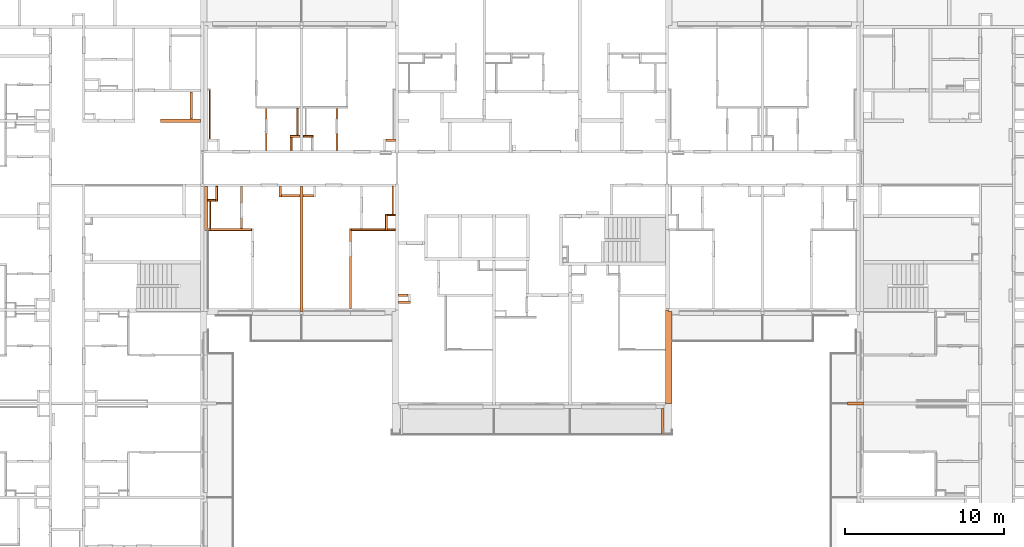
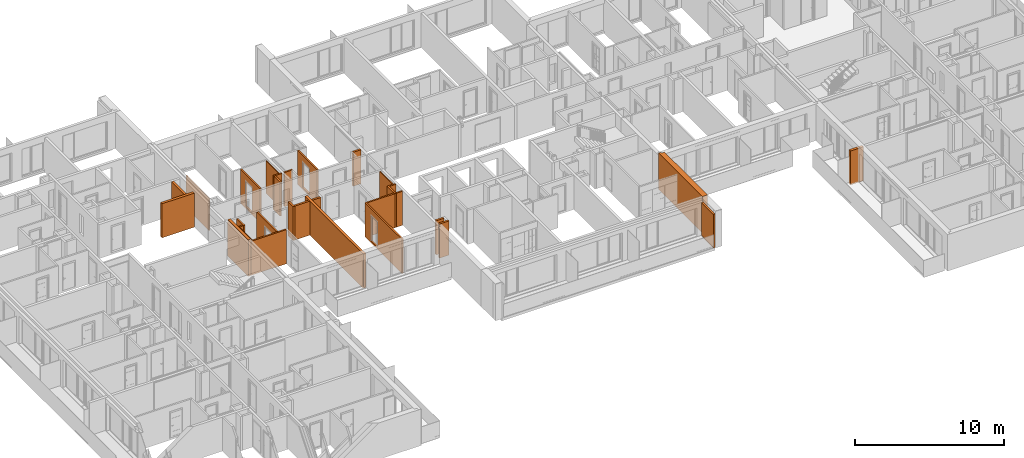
# One storey, part 54 of 64: 30 proxies, 4 openings.
"""IFC2X3 building model written with IfcOpenShell, lengths in millimetres."""

from ifc_helpers import new_model, entity, si_unit, converted_unit, derived_unit, money_unit, direction, frame, origin_with_axes, origin_2d_with_axis, place, context, subcontext, project, spatial, rectangle, extrude, faceted_brep, material, material_list, type_object, element, save


model = new_model("IFC2X3")

# Units and contexts
model_context = context("Model", 3, precision=0.01, world=origin_with_axes(), true_north=direction((0.34421633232, 0.938890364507)))
body_context = subcontext(model_context, "Body", "Model", "MODEL_VIEW")
ifc_project = project(units=[si_unit("LENGTHUNIT", "METRE", prefix="MILLI"), si_unit("AREAUNIT", "SQUARE_METRE"), si_unit("VOLUMEUNIT", "CUBIC_METRE"), converted_unit("PLANEANGLEUNIT", "DEGREE", entity("IfcPlaneAngleMeasure", 0.0174532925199), si_unit("PLANEANGLEUNIT", "RADIAN"), dimensions=[0, 0, 0, 0, 0, 0, 0]), si_unit("SOLIDANGLEUNIT", "STERADIAN"), money_unit("USD"), converted_unit("TIMEUNIT", "Year", entity("IfcTimeMeasure", 31556926.0), si_unit("TIMEUNIT", "SECOND"), dimensions=[0, 0, 1, 0, 0, 0, 0]), si_unit("MASSUNIT", "GRAM", prefix="KILO"), si_unit("THERMODYNAMICTEMPERATUREUNIT", "DEGREE_CELSIUS"), si_unit("LUMINOUSINTENSITYUNIT", "LUMEN"), si_unit("ENERGYUNIT", "JOULE", prefix="MEGA"), derived_unit("THERMALCONDUCTANCEUNIT", [(si_unit("POWERUNIT", "WATT"), 1), (si_unit("LENGTHUNIT", "METRE"), -1), (si_unit("THERMODYNAMICTEMPERATUREUNIT", "KELVIN"), -1)]), derived_unit("SPECIFICHEATCAPACITYUNIT", [(si_unit("ENERGYUNIT", "JOULE"), 1), (si_unit("MASSUNIT", "GRAM", prefix="KILO"), -1), (si_unit("THERMODYNAMICTEMPERATUREUNIT", "KELVIN"), -1)]), derived_unit("MASSDENSITYUNIT", [(si_unit("MASSUNIT", "GRAM", prefix="KILO"), 1), (si_unit("VOLUMEUNIT", "CUBIC_METRE"), -1)])], contexts=[model_context])

# Site, building, storey
site_placement = place(None, origin_with_axes())
site = spatial("IfcSite", under=ifc_project, at=site_placement, Name="USTRONIE MORSKIE", CompositionType="ELEMENT")
building_placement = place(site_placement, origin_with_axes())
building = spatial("IfcBuilding", under=site, at=building_placement, Name="Budynek", CompositionType="ELEMENT")
storey_placement = place(building_placement, frame((0.0, 0.0, 7000.0), z_axis=(0.0, 0.0, 1.0), x_axis=(1.0, 0.0, 0.0)))
storey = spatial("IfcBuildingStorey", under=building, at=storey_placement, Name="PIĘTRO 2", CompositionType="ELEMENT", Elevation=7000.0)

# Proxies
ifc_material_1 = material(Name="Bloczki silikatowe")
building_element_proxy_type_1 = type_object("IfcBuildingElementProxyType", Name="Bloczki silikatowe 120", PredefinedType="NOTDEFINED")
proxy_1_placement = place(storey_placement, frame((378717.914575, 731951.199132, -160.0), z_axis=(0.0, 0.0, 1.0), x_axis=(3.11484010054e-05, 0.999999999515, 0.0)))
element("IfcBuildingElementProxy", 1, at=proxy_1_placement, inside=storey, type_object=building_element_proxy_type_1, material=ifc_material_1, Name="SW-04", context=body_context, shape_type="Brep", body=[
    faceted_brep([(979.997380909, 0.0, 2800.0), (979.989905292, 120.0, 2800.0), (-60.0037378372, 120.0, 2800.0), (-60.000000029, 0.0, 2800.0), (979.997380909, 0.0, 0.0), (979.989905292, 120.0, 0.0), (-60.0037378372, 120.0, 0.0), (-60.000000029, 0.0, 0.0)], [[[0, 1, 2, 3]], [[1, 0, 4, 5]], [[1, 5, 6, 2]], [[7, 3, 2, 6]], [[4, 0, 3, 7]], [[5, 4, 7, 6]]]),
])
proxy_2_placement = place(storey_placement, frame((373317.920919, 737751.199937, -160.0), z_axis=(0.0, 0.0, 1.0), x_axis=(1.0, 0.0, 0.0)))
element("IfcBuildingElementProxy", 2, at=proxy_2_placement, inside=storey, type_object=building_element_proxy_type_1, material=ifc_material_1, Name="SW-04", context=body_context, shape_type="Brep", body=[
    faceted_brep([(720.0, 120.0, 0.0), (720.0, 0.0, 0.0), (100.0, 0.0, 0.0), (100.0, 120.0, 0.0), (720.0, 120.0, 2800.0), (720.0, 0.0, 2800.0), (100.0, 0.0, 2800.0), (100.0, 120.0, 2800.0)], [[[0, 1, 2, 3]], [[1, 0, 4, 5]], [[1, 5, 6, 2]], [[7, 3, 2, 6]], [[4, 0, 3, 7]], [[5, 4, 7, 6]]]),
])
proxy_3_placement = place(storey_placement, frame((372717.920919, 737751.199937, -160.0), z_axis=(0.0, 0.0, 1.0), x_axis=(0.0, -1.0, 0.0)))
element("IfcBuildingElementProxy", 3, at=proxy_3_placement, inside=storey, type_object=building_element_proxy_type_1, material=ifc_material_1, Name="SW-04", context=body_context, shape_type="Brep", body=[
    faceted_brep([(820.00090117, -120.0, 2800.0), (820.00090117, 0.0, 2800.0), (0.0, 0.0, 2800.0), (0.0, -120.0, 2800.0), (820.00090117, -120.0, 0.0), (820.00090117, 0.0, 0.0), (0.0, 0.0, 0.0), (0.0, -120.0, 0.0)], [[[0, 1, 2, 3]], [[1, 0, 4, 5]], [[1, 5, 6, 2]], [[7, 3, 2, 6]], [[4, 0, 3, 7]], [[5, 4, 7, 6]]]),
])

# Proxy, opening
proxy_4_placement = place(storey_placement, frame((369537.940089, 734751.19979, -160.0), z_axis=(0.0, 0.0, 1.0), x_axis=(0.0, -1.0, 0.0)))
proxy_4 = element("IfcBuildingElementProxy", 4, at=proxy_4_placement, inside=storey, type_object=building_element_proxy_type_1, material=ifc_material_1, Name="SW-04", context=body_context, shape_type="Brep", body=[
    faceted_brep([(2740.00065711, 60.0, 0.0), (2740.00065711, -60.0, 0.0), (80.0000185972, -60.0, 0.0), (79.9999814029, 60.0, 0.0), (2740.00065711, 60.0, 2800.0), (2740.00065711, -60.0, 2800.0), (80.0000185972, -60.0, 2800.0), (79.9999814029, 60.0, 2800.0)], [[[0, 1, 2, 3]], [[1, 0, 4, 5]], [[1, 5, 6, 2]], [[7, 3, 2, 6]], [[4, 0, 3, 7]], [[5, 4, 7, 6]]]),
])
opening_1_placement = place(proxy_4_placement, frame((1599.9664843, 0.0, 160.0), z_axis=(0.0, 0.0, 1.0), x_axis=(1.0, 0.0, 0.0)))
element("IfcOpeningElement", 5, at=opening_1_placement, cuts=proxy_4, Name="Dw.4", context=body_context, shape_type="SweptSolid", body=[
    extrude(rectangle(XDim=920.0, YDim=2070.0, at=origin_2d_with_axis()), frame((0.0, -120.0, 1035.0), z_axis=(0.0, -1.0, 0.0), x_axis=(-1.0, 0.0, 0.0)), (0.0, 0.0, -1.0), 360.0),
    extrude(rectangle(XDim=994.0, YDim=2177.0, at=origin_2d_with_axis()), frame((0.0, -60.0, 1088.5), z_axis=(0.0, -1.0, 0.0), x_axis=(-1.0, 0.0, 0.0)), (0.0, 0.0, 1.0), 120.0),
    extrude(rectangle(XDim=994.0, YDim=2177.0, at=origin_2d_with_axis()), frame((0.0, 60.0, 1088.5), z_axis=(0.0, 1.0, 0.0), x_axis=(-1.0, 0.0, 0.0)), (0.0, 0.0, 1.0), 120.0),
])

# Proxies
proxy_5_placement = place(storey_placement, frame((367917.928509, 734751.199287, -160.0), z_axis=(0.0, 0.0, 1.0), x_axis=(-3.11484010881e-05, -0.999999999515, 0.0)))
element("IfcBuildingElementProxy", 6, at=proxy_5_placement, inside=storey, type_object=building_element_proxy_type_1, material=ifc_material_1, Name="SW-04", context=body_context, shape_type="Brep", body=[
    faceted_brep([(1019.99666385, 0.0, 2800.0), (1019.98918823, 120.0, 2800.0), (79.9962250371, 120.0, 2800.0), (80.0000000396, 0.0, 2800.0), (1019.99666385, 0.0, 0.0), (1019.98918823, 120.0, 0.0), (79.9962250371, 120.0, 0.0), (80.0000000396, 0.0, 0.0)], [[[0, 1, 2, 3]], [[1, 0, 4, 5]], [[1, 5, 6, 2]], [[7, 3, 2, 6]], [[4, 0, 3, 7]], [[5, 4, 7, 6]]]),
])
proxy_6_placement = place(storey_placement, frame((373317.920919, 737751.199937, -160.0), z_axis=(0.0, 0.0, 1.0), x_axis=(-1.0, 0.0, 0.0)))
element("IfcBuildingElementProxy", 7, at=proxy_6_placement, inside=storey, type_object=building_element_proxy_type_1, material=ifc_material_1, Name="SW-04", context=body_context, shape_type="Brep", body=[
    faceted_brep([(720.0, 0.0, 2800.0), (100.0, 0.0, 2800.0), (100.0, -120.0, 2800.0), (720.0, -120.0, 2800.0), (720.0, 0.0, 0.0), (100.0, 0.0, 0.0), (100.0, -120.0, 0.0), (720.0, -120.0, 0.0)], [[[0, 1, 2, 3]], [[4, 5, 1, 0]], [[5, 6, 2, 1]], [[3, 2, 6, 7]], [[7, 4, 0, 3]], [[7, 6, 5, 4]]]),
])
proxy_7_placement = place(storey_placement, frame((379317.920919, 732811.215201, -160.0), z_axis=(0.0, 0.0, 1.0), x_axis=(-0.999999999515, -3.11484020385e-05, 0.0)))
element("IfcBuildingElementProxy", 8, at=proxy_7_placement, inside=storey, type_object=building_element_proxy_type_1, material=ifc_material_1, Name="SW-04", context=body_context, shape_type="Brep", body=[
    faceted_brep([(599.979556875, 1.13686837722e-10, 0.0), (599.972081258, -120.0, 0.0), (99.9962622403, -120.0, 0.0), (100.000000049, 1.13686837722e-10, 0.0), (599.979556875, 1.13686837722e-10, 2800.0), (599.972081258, -120.0, 2800.0), (99.9962622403, -120.0, 2800.0), (100.000000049, 1.13686837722e-10, 2800.0)], [[[0, 1, 2, 3]], [[1, 0, 4, 5]], [[1, 5, 6, 2]], [[7, 3, 2, 6]], [[4, 0, 3, 7]], [[5, 4, 7, 6]]]),
])
proxy_8_placement = place(storey_placement, frame((367317.920919, 731951.199132, -160.0), z_axis=(0.0, 0.0, 1.0), x_axis=(1.0, 0.0, 0.0)))
element("IfcBuildingElementProxy", 9, at=proxy_8_placement, inside=storey, type_object=building_element_proxy_type_1, material=ifc_material_1, Name="SW-04", context=body_context, shape_type="Brep", body=[
    faceted_brep([(2860.01935038, -59.9999999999, 2800.0), (2860.01935038, 59.9999999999, 2800.0), (99.9999999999, 59.9999999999, 2800.0), (99.9999999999, -59.9999999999, 2800.0), (2860.01935038, -59.9999999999, 0.0), (2860.01935038, 59.9999999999, 0.0), (99.9999999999, 59.9999999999, 0.0), (99.9999999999, -59.9999999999, 0.0)], [[[0, 1, 2, 3]], [[1, 0, 4, 5]], [[1, 5, 6, 2]], [[7, 3, 2, 6]], [[4, 0, 3, 7]], [[5, 4, 7, 6]]]),
])
proxy_9_placement = place(storey_placement, frame((367317.920919, 733851.183936, -160.0), z_axis=(0.0, 0.0, 1.0), x_axis=(0.999999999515, 3.11484020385e-05, 0.0)))
element("IfcBuildingElementProxy", 10, at=proxy_9_placement, inside=storey, type_object=building_element_proxy_type_1, material=ifc_material_1, Name="SW-04", context=body_context, shape_type="Brep", body=[
    faceted_brep([(599.979556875, 1.13686837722e-10, 0.0), (599.972081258, -120.0, 0.0), (99.9962622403, -120.0, 0.0), (100.000000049, 1.13686837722e-10, 0.0), (599.979556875, 1.13686837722e-10, 2800.0), (599.972081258, -120.0, 2800.0), (99.9962622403, -120.0, 2800.0), (100.000000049, 1.13686837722e-10, 2800.0)], [[[0, 1, 2, 3]], [[1, 0, 4, 5]], [[1, 5, 6, 2]], [[7, 3, 2, 6]], [[4, 0, 3, 7]], [[5, 4, 7, 6]]]),
])

# Proxy, opening
proxy_10_placement = place(storey_placement, frame((375537.920919, 739651.199937, -160.0), z_axis=(0.0, 0.0, 1.0), x_axis=(0.0, -1.0, 0.0)))
proxy_10 = element("IfcBuildingElementProxy", 11, at=proxy_10_placement, inside=storey, type_object=building_element_proxy_type_1, material=ifc_material_1, Name="SW-04", context=body_context, shape_type="Brep", body=[
    faceted_brep([(2720.00090117, 60.0, 0.0), (2720.00090117, -60.0, 0.0), (59.9999999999, -60.0, 0.0), (59.9999999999, 60.0, 0.0), (2720.00090117, 60.0, 2800.0), (2720.00090117, -60.0, 2800.0), (59.9999999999, -60.0, 2800.0), (59.9999999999, 60.0, 2800.0)], [[[0, 1, 2, 3]], [[1, 0, 4, 5]], [[1, 5, 6, 2]], [[7, 3, 2, 6]], [[4, 0, 3, 7]], [[5, 4, 7, 6]]]),
])
opening_2_placement = place(proxy_10_placement, frame((1200.00090117, 0.0, 160.0), z_axis=(0.0, 0.0, 1.0), x_axis=(1.0, 0.0, 0.0)))
element("IfcOpeningElement", 12, at=opening_2_placement, cuts=proxy_10, Name="Dw.4", context=body_context, shape_type="SweptSolid", body=[
    extrude(rectangle(XDim=920.0, YDim=2070.0, at=origin_2d_with_axis()), frame((0.0, -120.0, 1035.0), z_axis=(0.0, -1.0, 0.0), x_axis=(-1.0, 0.0, 0.0)), (0.0, 0.0, -1.0), 360.0),
    extrude(rectangle(XDim=994.0, YDim=2177.0, at=origin_2d_with_axis()), frame((0.0, -60.0, 1088.5), z_axis=(0.0, -1.0, 0.0), x_axis=(-1.0, 0.0, 0.0)), (0.0, 0.0, 1.0), 120.0),
    extrude(rectangle(XDim=994.0, YDim=2177.0, at=origin_2d_with_axis()), frame((0.0, 60.0, 1088.5), z_axis=(0.0, 1.0, 0.0), x_axis=(-1.0, 0.0, 0.0)), (0.0, 0.0, 1.0), 120.0),
])

proxy_11_placement = place(storey_placement, frame((371097.920919, 739651.199937, -160.0), z_axis=(0.0, 0.0, 1.0), x_axis=(0.0, -1.0, 0.0)))
proxy_11 = element("IfcBuildingElementProxy", 13, at=proxy_11_placement, inside=storey, type_object=building_element_proxy_type_1, material=ifc_material_1, Name="SW-04", context=body_context, shape_type="Brep", body=[
    faceted_brep([(2720.00090117, -60.0, 2800.0), (2720.00090117, 60.0, 2800.0), (59.9999999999, 60.0, 2800.0), (59.9999999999, -60.0, 2800.0), (2720.00090117, -60.0, 0.0), (2720.00090117, 60.0, 0.0), (59.9999999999, 60.0, 0.0), (59.9999999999, -60.0, 0.0)], [[[0, 1, 2, 3]], [[1, 0, 4, 5]], [[1, 5, 6, 2]], [[7, 3, 2, 6]], [[4, 0, 3, 7]], [[5, 4, 7, 6]]]),
])
opening_3_placement = place(proxy_11_placement, frame((1200.00090117, 0.0, 160.0), z_axis=(0.0, 0.0, 1.0), x_axis=(1.0, 0.0, 0.0)))
element("IfcOpeningElement", 14, at=opening_3_placement, cuts=proxy_11, Name="Dw.4", context=body_context, shape_type="SweptSolid", body=[
    extrude(rectangle(XDim=920.0, YDim=2070.0, at=origin_2d_with_axis()), frame((0.0, 120.0, 1035.0), z_axis=(0.0, -1.0, 0.0), x_axis=(-1.0, 0.0, 0.0)), (0.0, 0.0, 1.0), 360.0),
    extrude(rectangle(XDim=994.0, YDim=2177.0, at=origin_2d_with_axis()), frame((0.0, 60.0, 1088.5), z_axis=(0.0, -1.0, 0.0), x_axis=(-1.0, 0.0, 0.0)), (0.0, 0.0, -1.0), 120.0),
    extrude(rectangle(XDim=994.0, YDim=2177.0, at=origin_2d_with_axis()), frame((0.0, -60.0, 1088.5), z_axis=(0.0, 1.0, 0.0), x_axis=(-1.0, 0.0, 0.0)), (0.0, 0.0, -1.0), 120.0),
])

# Proxy
proxy_12_placement = place(storey_placement, frame((379317.920919, 731951.199132, -160.0), z_axis=(0.0, 0.0, 1.0), x_axis=(-1.0, 0.0, 0.0)))
element("IfcBuildingElementProxy", 15, at=proxy_12_placement, inside=storey, type_object=building_element_proxy_type_1, material=ifc_material_1, Name="SW-04", context=body_context, shape_type="Brep", body=[
    faceted_brep([(2860.01935038, 59.9999999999, 0.0), (2860.01935038, -59.9999999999, 0.0), (720.004475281, -59.9999999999, 0.0), (720.008213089, 59.9999999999, 0.0), (2860.01935038, 59.9999999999, 2800.0), (2860.01935038, -59.9999999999, 2800.0), (720.004475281, -59.9999999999, 2800.0), (720.008213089, 59.9999999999, 2800.0)], [[[0, 1, 2, 3]], [[1, 0, 4, 5]], [[1, 5, 6, 2]], [[7, 3, 2, 6]], [[4, 0, 3, 7]], [[5, 4, 7, 6]]]),
    faceted_brep([(600.008213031, 59.9999999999, 0.0), (600.004475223, -59.9999999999, 0.0), (100.0, -59.9999999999, 0.0), (100.0, 59.9999999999, 0.0), (600.008213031, 59.9999999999, 2800.0), (600.004475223, -59.9999999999, 2800.0), (100.0, -59.9999999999, 2800.0), (100.0, 59.9999999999, 2800.0)], [[[0, 1, 2, 3]], [[1, 0, 4, 5]], [[1, 5, 6, 2]], [[7, 3, 2, 6]], [[4, 0, 3, 7]], [[5, 4, 7, 6]]]),
])

# Proxy, opening
proxy_13_placement = place(storey_placement, frame((376397.901569, 731951.199132, -160.0), z_axis=(0.0, 0.0, 1.0), x_axis=(0.0, -1.0, 0.0)))
proxy_13 = element("IfcBuildingElementProxy", 16, at=proxy_13_placement, inside=storey, type_object=building_element_proxy_type_1, material=ifc_material_1, Name="SW-04", context=body_context, shape_type="Brep", body=[
    faceted_brep([(4950.00009633, -60.0, 2800.0), (4950.00009633, 60.0, 2800.0), (-59.9999999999, 60.0, 2800.0), (-59.9999999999, -60.0, 2800.0), (4950.00009633, -60.0, 0.0), (4950.00009633, 60.0, 0.0), (-59.9999999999, 60.0, 0.0), (-59.9999999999, -60.0, 0.0)], [[[0, 1, 2, 3]], [[1, 0, 4, 5]], [[1, 5, 6, 2]], [[7, 3, 2, 6]], [[4, 0, 3, 7]], [[5, 4, 7, 6]]]),
])
opening_4_placement = place(proxy_13_placement, frame((1220.00038806, 0.0, 160.0), z_axis=(0.0, 0.0, 1.0), x_axis=(1.0, 0.0, 0.0)))
element("IfcOpeningElement", 17, at=opening_4_placement, cuts=proxy_13, Name="Dw.3", context=body_context, shape_type="SweptSolid", body=[
    extrude(rectangle(XDim=920.0, YDim=2070.0, at=origin_2d_with_axis()), frame((0.0, 120.0, 1035.0), z_axis=(0.0, 1.0, 0.0), x_axis=(-1.0, 0.0, 0.0)), (0.0, 0.0, -1.0), 360.0),
    extrude(rectangle(XDim=994.0, YDim=2177.0, at=origin_2d_with_axis()), frame((0.0, 60.0, 1088.5), z_axis=(0.0, 1.0, 0.0), x_axis=(-1.0, 0.0, 0.0)), (0.0, 0.0, 1.0), 120.0),
    extrude(rectangle(XDim=994.0, YDim=2177.0, at=origin_2d_with_axis()), frame((0.0, -60.0, 1088.5), z_axis=(0.0, -1.0, 0.0), x_axis=(-1.0, 0.0, 0.0)), (0.0, 0.0, 1.0), 120.0),
])

# Proxies
ifc_material_2 = material(Name="Tynk zewnętrzny")
ifc_material_3 = material(Name="Wełna ELEW")
ifc_material_4 = material(Name="Beton konstrukcyjny B25")
ifc_material_list_1 = material_list([ifc_material_2, ifc_material_3, ifc_material_4])
building_element_proxy_type_2 = type_object("IfcBuildingElementProxyType", Name="20+20 410", PredefinedType="NOTDEFINED")
proxy_14_placement = place(storey_placement, frame((396317.920919, 726901.199036, -160.0), z_axis=(0.0, 0.0, 1.0), x_axis=(0.0, -1.0, 0.0)))
element("IfcBuildingElementProxy", 18, at=proxy_14_placement, inside=storey, type_object=building_element_proxy_type_2, material=ifc_material_list_1, Name="SZ-01", context=body_context, shape_type="Brep", body=[
    faceted_brep([(300.0, 300.0, 2800.0), (300.0, 310.0, 2800.0), (300.0, 310.0, 110.0), (300.0, 300.271623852, 110.0), (300.0, 300.271623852, 0.0), (300.0, 300.0, 0.0), (1900.00067759, 310.0, 2800.0), (1900.00067759, 301.448005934, 2800.0), (1900.00067759, 310.0, 3000.0), (5900.0, 310.0, 3000.0), (5900.0, 310.0, 0.0), (1900.00067759, 310.0, 0.0), (1900.00067759, 310.0, 110.0), (1900.00067759, 301.719629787, 110.0), (1900.00067759, 301.719629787, 0.0), (5900.0, 300.0, 0.0), (300.0, 300.0, 3000.0), (5900.0, 300.0, 3000.0), (1900.00067759, 301.448005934, 3000.0)], [[[0, 1, 2, 3, 4, 5]], [[6, 1, 0, 7]], [[6, 8, 9, 10, 11, 12, 2, 1]], [[3, 2, 12, 13]], [[3, 13, 14, 4]], [[14, 11, 10, 15, 5, 4]], [[16, 0, 5, 15, 17]], [[16, 18, 7, 0]], [[18, 8, 6, 7]], [[18, 16, 17, 9, 8]], [[15, 10, 9, 17]], [[13, 12, 11, 14]]]),
    faceted_brep([(5900.0, 300.0, 0.0), (100.0, 300.0, 0.0), (100.0, 300.0, 3000.0), (5900.0, 300.0, 3000.0), (5900.0, 100.0, 0.0), (100.0, 100.0, 0.0), (100.0, 100.0, 3000.0), (5900.0, 100.0, 3000.0)], [[[0, 1, 2, 3]], [[4, 5, 1, 0]], [[5, 6, 2, 1]], [[3, 2, 6, 7]], [[4, 0, 3, 7]], [[7, 6, 5, 4]]]),
    faceted_brep([(0.0, 100.0, 3000.0), (0.0, -100.0, 3000.0), (5900.0, -100.0, 3000.0), (5900.0, 100.0, 3000.0), (0.0, 100.0, 0.0), (0.0, -100.0, 0.0), (5900.0, -100.0, 0.0), (5900.0, 100.0, 0.0)], [[[0, 1, 2, 3]], [[4, 5, 1, 0]], [[1, 5, 6, 2]], [[7, 3, 2, 6]], [[4, 0, 3, 7]], [[5, 4, 7, 6]]]),
])
building_element_proxy_type_3 = type_object("IfcBuildingElementProxyType", Name="Bloczki silikatowe 180", PredefinedType="NOTDEFINED")
proxy_15_placement = place(storey_placement, frame((366377.920919, 738801.199036, -160.0), z_axis=(0.0, 0.0, 1.0), x_axis=(0.0, 1.0, 0.0)))
element("IfcBuildingElementProxy", 19, at=proxy_15_placement, inside=storey, type_object=building_element_proxy_type_3, material=ifc_material_1, Name="SW-02", context=body_context, shape_type="Brep", body=[
    faceted_brep([(1819.98043997, -90.0, 2800.0), (1819.98043997, 90.0, 2800.0), (100.0, 90.0, 2800.0), (100.0, -90.0, 2800.0), (1819.98043997, -90.0, 0.0), (1819.98043997, 90.0, 0.0), (100.0, 90.0, 0.0), (100.0, -90.0, 0.0)], [[[0, 1, 2, 3]], [[1, 0, 4, 5]], [[1, 5, 6, 2]], [[7, 3, 2, 6]], [[4, 0, 3, 7]], [[5, 4, 7, 6]]]),
])
ifc_material_5 = material(Name="-Pustka powietrzna")
ifc_material_6 = material(Name="Płyta GK")
ifc_material_list_2 = material_list([ifc_material_5, ifc_material_6, ifc_material_6])
building_element_proxy_type_4 = type_object("IfcBuildingElementProxyType", Name="330-SD GK 2-warstwy 75", PredefinedType="NOTDEFINED")
proxy_16_placement = place(storey_placement, frame((373072.933272, 739651.199937, -180.0), z_axis=(0.0, 0.0, 1.0), x_axis=(0.0, -1.0, 0.0)))
element("IfcBuildingElementProxy", 20, at=proxy_16_placement, inside=storey, type_object=building_element_proxy_type_4, material=ifc_material_list_2, Name="Ściana-009", context=body_context, shape_type="Brep", body=[
    faceted_brep([(1780.0, 25.0, 180.0), (59.9999999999, 25.0, 180.0), (59.9999999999, 25.0, 2820.0), (1780.0, 25.0, 2820.0), (59.9999999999, -25.0, 180.0), (1780.0, -25.0, 180.0), (59.9999999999, -25.0, 2820.0), (1780.0, -25.0, 2820.0)], [[[0, 1, 2, 3]], [[4, 1, 0, 5]], [[1, 4, 6, 2]], [[6, 7, 3, 2]], [[5, 0, 3, 7]], [[4, 5, 7, 6]]]),
    faceted_brep([(1780.0, -25.0, 165.0), (59.9999999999, -25.0, 165.0), (59.9999999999, -25.0, 2820.0), (1780.0, -25.0, 2820.0), (59.9999999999, -37.5, 165.0), (1780.0, -37.5, 165.0), (59.9999999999, -37.5, 2820.0), (1780.0, -37.5, 2820.0)], [[[0, 1, 2, 3]], [[4, 1, 0, 5]], [[1, 4, 6, 2]], [[6, 7, 3, 2]], [[5, 0, 3, 7]], [[4, 5, 7, 6]]]),
    faceted_brep([(1780.0, -37.5, 165.0), (59.9999999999, -37.5, 165.0), (59.9999999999, -37.5, 2820.0), (1780.0, -37.5, 2820.0), (59.9999999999, -50.0, 165.0), (1780.0, -50.0, 165.0), (59.9999999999, -50.0, 2820.0), (1780.0, -50.0, 2820.0)], [[[0, 1, 2, 3]], [[4, 1, 0, 5]], [[1, 4, 6, 2]], [[6, 7, 3, 2]], [[5, 0, 3, 7]], [[4, 5, 7, 6]]]),
])
ifc_material_list_3 = material_list([ifc_material_6, ifc_material_6, ifc_material_5])
proxy_17_placement = place(storey_placement, frame((367562.908566, 733851.192501, -160.0), z_axis=(0.0, 0.0, 1.0), x_axis=(0.0, -1.0, 0.0)))
element("IfcBuildingElementProxy", 21, at=proxy_17_placement, inside=storey, type_object=building_element_proxy_type_4, material=ifc_material_list_3, Name="Ściana-009", context=body_context, shape_type="Brep", body=[
    faceted_brep([(1839.99336882, 50.0, 145.0), (119.99937709, 50.0, 145.0), (119.99937709, 50.0, 2800.0), (1839.99336882, 50.0, 2800.0), (119.999766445, 37.5, 145.0), (1839.99336882, 37.5, 145.0), (119.999766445, 37.5, 2800.0), (1839.99336882, 37.5, 2800.0)], [[[0, 1, 2, 3]], [[4, 1, 0, 5]], [[1, 4, 6, 2]], [[7, 3, 2, 6]], [[5, 0, 3, 7]], [[4, 5, 7, 6]]]),
    faceted_brep([(1839.99336882, 37.5, 145.0), (119.999766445, 37.5, 145.0), (119.999766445, 37.5, 2800.0), (1839.99336882, 37.5, 2800.0), (120.0001558, 25.0, 145.0), (1839.99336882, 25.0, 145.0), (120.0001558, 25.0, 2800.0), (1839.99336882, 25.0, 2800.0)], [[[0, 1, 2, 3]], [[4, 1, 0, 5]], [[1, 4, 6, 2]], [[7, 3, 2, 6]], [[5, 0, 3, 7]], [[4, 5, 7, 6]]]),
    faceted_brep([(1839.99336882, 25.0, 160.0), (120.0001558, 25.0, 160.0), (120.0001558, 25.0, 2800.0), (1839.99336882, 25.0, 2800.0), (120.00171322, -25.0, 160.0), (1839.99336882, -25.0, 160.0), (120.00171322, -25.0, 2800.0), (1839.99336882, -25.0, 2800.0)], [[[0, 1, 2, 3]], [[4, 1, 0, 5]], [[1, 4, 6, 2]], [[7, 3, 2, 6]], [[5, 0, 3, 7]], [[4, 5, 7, 6]]]),
])
proxy_18_placement = place(storey_placement, frame((367547.898487, 737501.202288, -180.0), z_axis=(0.0, 0.0, 1.0), x_axis=(1.16660687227e-07, 1.0, 0.0)))
element("IfcBuildingElementProxy", 22, at=proxy_18_placement, inside=storey, type_object=building_element_proxy_type_4, material=ifc_material_list_2, Name="Ściana-009", context=body_context, shape_type="Brep", body=[
    faceted_brep([(150.0, 0.0, 180.0), (3270.0, 0.0, 180.0), (3270.0, 0.0, 2820.0), (150.0, 0.0, 2820.0), (3269.99999417, 50.0000000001, 180.0), (149.999994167, 50.0000000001, 180.0), (3269.99999417, 50.0000000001, 2820.0), (149.999994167, 50.0000000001, 2820.0)], [[[0, 1, 2, 3]], [[4, 1, 0, 5]], [[1, 4, 6, 2]], [[6, 7, 3, 2]], [[5, 0, 3, 7]], [[4, 5, 7, 6]]]),
    faceted_brep([(150.000001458, -12.4999999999, 165.0), (3282.50000146, -12.4999999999, 165.0), (3282.50000146, -12.4999999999, 2820.0), (150.000001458, -12.4999999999, 2820.0), (3282.50000001, 0.0, 165.0), (150.0, 1.13686837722e-10, 165.0), (3282.50000001, 0.0, 2820.0), (150.0, 0.0, 2820.0)], [[[0, 1, 2, 3]], [[4, 1, 0, 5]], [[1, 4, 6, 2]], [[6, 7, 3, 2]], [[5, 0, 3, 7]], [[4, 5, 7, 6]]]),
    faceted_brep([(150.000002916, -24.9999999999, 165.0), (3295.00000292, -25.0, 165.0), (3295.00000292, -25.0, 2820.0), (150.000002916, -24.9999999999, 2820.0), (3295.00000146, -12.4999999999, 165.0), (150.000001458, -12.4999999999, 165.0), (3295.00000146, -12.4999999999, 2820.0), (150.000001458, -12.4999999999, 2820.0)], [[[0, 1, 2, 3]], [[4, 1, 0, 5]], [[1, 4, 6, 2]], [[6, 7, 3, 2]], [[5, 0, 3, 7]], [[4, 5, 7, 6]]]),
])
proxy_19_placement = place(storey_placement, frame((379072.933272, 732811.206636, -160.0), z_axis=(0.0, 0.0, 1.0), x_axis=(0.0, 1.0, 0.0)))
element("IfcBuildingElementProxy", 23, at=proxy_19_placement, inside=storey, type_object=building_element_proxy_type_4, material=ifc_material_list_3, Name="Ściana-009", context=body_context, shape_type="Brep", body=[
    faceted_brep([(119.999766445, 37.5, 145.0), (1859.99609764, 37.5, 145.0), (1859.99609764, 37.5, 2800.0), (119.999766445, 37.5, 2800.0), (1859.99609377, 50.0, 145.0), (119.99937709, 50.0, 145.0), (1859.99609377, 50.0, 2800.0), (119.99937709, 50.0, 2800.0)], [[[0, 1, 2, 3]], [[4, 1, 0, 5]], [[1, 4, 6, 2]], [[2, 6, 7, 3]], [[5, 0, 3, 7]], [[4, 5, 7, 6]]]),
    faceted_brep([(120.0001558, 25.0, 145.0), (1859.99610152, 25.0, 145.0), (1859.99610152, 25.0, 2800.0), (120.0001558, 25.0, 2800.0), (1859.99609764, 37.5, 145.0), (119.999766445, 37.5, 145.0), (1859.99609764, 37.5, 2800.0), (119.999766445, 37.5, 2800.0)], [[[0, 1, 2, 3]], [[4, 1, 0, 5]], [[1, 4, 6, 2]], [[2, 6, 7, 3]], [[5, 0, 3, 7]], [[4, 5, 7, 6]]]),
    faceted_brep([(120.00171322, -25.0, 160.0), (1859.99611702, -25.0, 160.0), (1859.99611702, -25.0, 2800.0), (120.00171322, -25.0, 2800.0), (1859.99610152, 25.0, 160.0), (120.0001558, 25.0, 160.0), (1859.99610152, 25.0, 2800.0), (120.0001558, 25.0, 2800.0)], [[[0, 1, 2, 3]], [[4, 1, 0, 5]], [[1, 4, 6, 2]], [[2, 6, 7, 3]], [[5, 0, 3, 7]], [[4, 5, 7, 6]]]),
])
building_element_proxy_type_5 = type_object("IfcBuildingElementProxyType", Name="Bloczki silikatowe 150", PredefinedType="NOTDEFINED")
proxy_20_placement = place(storey_placement, frame((372047.920919, 734151.201884, -160.0), z_axis=(0.0, 0.0, 1.0), x_axis=(1.0, 0.0, 0.0)))
element("IfcBuildingElementProxy", 24, at=proxy_20_placement, inside=storey, type_object=building_element_proxy_type_5, material=ifc_material_1, Name="SW-03", context=body_context, shape_type="Brep", body=[
    faceted_brep([(0.0, -150.0, 2800.0), (1170.0, -150.0, 2800.0), (1170.0, 0.0, 2800.0), (0.0, 0.0, 2800.0), (0.0, -150.0, 0.0), (1170.0, -150.0, 0.0), (1170.0, 0.0, 0.0), (0.0, 0.0, 0.0)], [[[0, 1, 2, 3]], [[4, 5, 1, 0]], [[5, 6, 2, 1]], [[3, 2, 6, 7]], [[3, 7, 4, 0]], [[7, 6, 5, 4]]]),
])
proxy_21_placement = place(storey_placement, frame((374067.920919, 734151.201884, -160.0), z_axis=(0.0, 0.0, 1.0), x_axis=(-1.0, 0.0, 0.0)))
element("IfcBuildingElementProxy", 25, at=proxy_21_placement, inside=storey, type_object=building_element_proxy_type_5, material=ifc_material_1, Name="SW-03", context=body_context, shape_type="Brep", body=[
    faceted_brep([(650.0, 0.0, 2800.0), (650.0, 150.0, 2800.0), (0.0, 150.0, 2800.0), (0.0, 0.0, 2800.0), (650.0, 0.0, 0.0), (650.0, 150.0, 0.0), (0.0, 150.0, 0.0), (0.0, 0.0, 0.0)], [[[0, 1, 2, 3]], [[1, 0, 4, 5]], [[1, 5, 6, 2]], [[7, 3, 2, 6]], [[4, 0, 3, 7]], [[5, 4, 7, 6]]]),
])
proxy_22_placement = place(storey_placement, frame((379317.920919, 727451.199036, -160.0), z_axis=(0.0, 0.0, 1.0), x_axis=(1.0, 0.0, 0.0)))
element("IfcBuildingElementProxy", 26, at=proxy_22_placement, inside=storey, type_object=building_element_proxy_type_5, material=ifc_material_1, Name="SW-03", context=body_context, shape_type="Brep", body=[
    faceted_brep([(850.00090117, -150.0, 2800.0), (850.00090117, 0.0, 2800.0), (100.0, 0.0, 2800.0), (100.0, -150.0, 2800.0), (850.00090117, -150.0, 0.0), (850.00090117, 0.0, 0.0), (100.0, 0.0, 0.0), (100.0, -150.0, 0.0)], [[[0, 1, 2, 3]], [[1, 0, 4, 5]], [[1, 5, 6, 2]], [[7, 3, 2, 6]], [[4, 0, 3, 7]], [[5, 4, 7, 6]]]),
])
proxy_23_placement = place(storey_placement, frame((380017.92182, 727826.199036, -160.0), z_axis=(0.0, 0.0, 1.0), x_axis=(-1.0, 0.0, 0.0)))
element("IfcBuildingElementProxy", 27, at=proxy_23_placement, inside=storey, type_object=building_element_proxy_type_5, material=ifc_material_1, Name="SW-03", context=body_context, shape_type="Brep", body=[
    faceted_brep([(600.00090117, 75.0, 0.0), (600.00090117, -75.0, 0.0), (0.0, -75.0, 0.0), (0.0, 75.0, 0.0), (600.00090117, 75.0, 2800.0), (600.00090117, -75.0, 2800.0), (0.0, -75.0, 2800.0), (0.0, 75.0, 2800.0)], [[[0, 1, 2, 3]], [[1, 0, 4, 5]], [[1, 5, 6, 2]], [[7, 3, 2, 6]], [[4, 0, 3, 7]], [[5, 4, 7, 6]]]),
])
proxy_24_placement = place(storey_placement, frame((378617.937739, 737501.202288, -160.0), z_axis=(0.0, 0.0, 1.0), x_axis=(1.0, 0.0, 0.0)))
element("IfcBuildingElementProxy", 28, at=proxy_24_placement, inside=storey, type_object=building_element_proxy_type_5, material=ifc_material_1, Name="SW-03", context=body_context, shape_type="Brep", body=[
    faceted_brep([(599.983179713, 0.0, 2800.0), (599.983179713, 150.0, 2800.0), (0.0, 150.0, 2800.0), (0.0, 0.0, 2800.0), (599.983179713, 0.0, 0.0), (599.983179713, 150.0, 0.0), (0.0, 150.0, 0.0), (0.0, 0.0, 0.0)], [[[0, 1, 2, 3]], [[1, 0, 4, 5]], [[1, 5, 6, 2]], [[7, 3, 2, 6]], [[4, 0, 3, 7]], [[5, 4, 7, 6]]]),
])
proxy_25_placement = place(storey_placement, frame((372047.920919, 734751.200744, -160.0), z_axis=(0.0, 0.0, 1.0), x_axis=(0.0, -1.0, 0.0)))
element("IfcBuildingElementProxy", 29, at=proxy_25_placement, inside=storey, type_object=building_element_proxy_type_5, material=ifc_material_1, Name="SW-03", context=body_context, shape_type="Brep", body=[
    faceted_brep([(749.998859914, 0.0, 0.0), (749.998859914, -150.0, 0.0), (80.0002231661, -150.0, 0.0), (80.000176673, 0.0, 0.0), (749.998859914, 0.0, 2800.0), (749.998859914, -150.0, 2800.0), (80.0002231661, -150.0, 2800.0), (80.000176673, 0.0, 2800.0)], [[[0, 1, 2, 3]], [[1, 0, 4, 5]], [[1, 5, 6, 2]], [[7, 3, 2, 6]], [[4, 0, 3, 7]], [[5, 4, 7, 6]]]),
])
building_element_proxy_type_6 = type_object("IfcBuildingElementProxyType", Name="Beton konstrukcyjny B25 200", PredefinedType="NOTDEFINED")
proxy_26_placement = place(storey_placement, frame((373317.920919, 726901.199036, -160.0), z_axis=(0.0, 0.0, 1.0), x_axis=(0.0, 1.0, 0.0)))
element("IfcBuildingElementProxy", 30, at=proxy_26_placement, inside=storey, type_object=building_element_proxy_type_6, material=ifc_material_4, Name="SW-01", context=body_context, shape_type="Brep", body=[
    faceted_brep([(-100.0, 100.0, 0.0), (7770.00189405, 100.0, 0.0), (7770.00195604, -100.0, 0.0), (-100.0, -100.0, 0.0), (-100.0, 100.0, 2800.0), (7770.00189405, 100.0, 2800.0), (7770.00195604, -100.0, 2800.0), (-100.0, -100.0, 2800.0)], [[[0, 1, 2, 3]], [[4, 5, 1, 0]], [[6, 2, 1, 5]], [[3, 2, 6, 7]], [[7, 4, 0, 3]], [[7, 6, 5, 4]]]),
])
proxy_27_placement = place(storey_placement, frame((367317.920919, 731891.199132, -160.0), z_axis=(0.0, 0.0, 1.0), x_axis=(0.0, 1.0, 0.0)))
element("IfcBuildingElementProxy", 31, at=proxy_27_placement, inside=storey, type_object=building_element_proxy_type_6, material=ifc_material_4, Name="SW-01", context=body_context, shape_type="Brep", body=[
    faceted_brep([(2779.99989152, 100.0, 0.0), (0.0, 100.0, 0.0), (0.0, 100.0, 3000.0), (2759.99990367, 100.0, 3000.0), (2759.99990367, 100.0, 2800.0), (2779.99989152, 100.0, 2800.0), (0.0, -100.0, 0.0), (2779.99989152, -100.0, 0.0), (0.0, -99.8939906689, 3000.0), (0.0, -100.0, 2800.0), (0.0, -99.8939906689, 2800.0), (2759.99990367, -99.9999963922, 3000.0), (2759.99990367, -99.9999963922, 2800.0), (2779.99989152, -100.0, 2800.0)], [[[0, 1, 2, 3, 4, 5]], [[6, 1, 0, 7]], [[8, 2, 1, 6, 9, 10]], [[11, 3, 2, 8]], [[12, 4, 3, 11]], [[13, 5, 4, 12]], [[7, 0, 5, 13]], [[12, 9, 6, 7, 13]], [[12, 10, 9]], [[8, 10, 12, 11]]]),
])
proxy_28_placement = place(storey_placement, frame((364447.920874, 738801.199036, -160.0), z_axis=(0.0, 0.0, 1.0), x_axis=(1.0, 0.0, 0.0)))
element("IfcBuildingElementProxy", 32, at=proxy_28_placement, inside=storey, type_object=building_element_proxy_type_6, material=ifc_material_4, Name="SW-01", context=body_context, shape_type="Brep", body=[
    faceted_brep([(2520.00004519, 100.0, 0.0), (2520.00004519, -100.0, 0.0), (0.0, -100.0, 0.0), (0.0, 100.0, 0.0), (2520.00004519, 100.0, 2800.0), (2520.00004519, -100.0, 2800.0), (0.0, -100.0, 2800.0), (0.0, 100.0, 2800.0)], [[[0, 1, 2, 3]], [[1, 0, 4, 5]], [[1, 5, 6, 2]], [[7, 3, 2, 6]], [[4, 0, 3, 7]], [[5, 4, 7, 6]]]),
])
proxy_29_placement = place(storey_placement, frame((407667.88964, 721001.199036, -160.0), z_axis=(0.0, 0.0, 1.0), x_axis=(1.0, 0.0, 0.0)))
element("IfcBuildingElementProxy", 33, at=proxy_29_placement, inside=storey, type_object=building_element_proxy_type_6, material=ifc_material_4, Name="SW-01", context=body_context, shape_type="Brep", body=[
    faceted_brep([(0.0, 100.0, 0.0), (1000.01949579, 100.0, 0.0), (1000.01908219, -100.0, 0.0), (0.0, -100.0, 0.0), (0.0, 100.0, 2800.0), (1000.01949579, 100.0, 2800.0), (1000.01908219, -100.0, 2800.0), (0.0, -100.0, 2800.0)], [[[0, 1, 2, 3]], [[4, 5, 1, 0]], [[6, 2, 1, 5]], [[3, 2, 6, 7]], [[7, 4, 0, 3]], [[7, 6, 5, 4]]]),
])
ifc_material_7 = material(Name="Laminat")
building_element_proxy_type_7 = type_object("IfcBuildingElementProxyType", Name="Laminat 150", PredefinedType="NOTDEFINED")
proxy_30_placement = place(storey_placement, frame((396032.920919, 720691.199036, -160.0), z_axis=(0.0, 0.0, 1.0), x_axis=(0.0, -1.0, 0.0)))
element("IfcBuildingElementProxy", 34, at=proxy_30_placement, inside=storey, type_object=building_element_proxy_type_7, material=ifc_material_7, Name="SW-03", context=body_context, shape_type="Brep", body=[
    faceted_brep([(1572.49971536, 74.9999999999, 109.999995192), (1572.49971536, -75.0, 109.999995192), (4.99980812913, -75.0, 109.999995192), (4.99980812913, 74.9999999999, 109.999995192), (1572.49971536, 74.9999999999, 14.9999951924), (1572.49971536, -75.0, 14.9999951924), (0.0, -75.0, 2789.99999183), (0.0, -75.0, 9.99999623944), (1600.03040031, -75.0, 10.0000009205), (1600.03040031, -75.0, 2789.99999183), (1547.49980813, -75.0, 14.9999951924), (1547.49980813, -75.0, 84.9999951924), (4.99980812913, -75.0, 84.9999951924), (4.99980812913, 74.9999999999, 84.9999951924), (1600.03040031, 74.9999999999, 2789.99999183), (1600.03040031, 74.9999999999, 10.0000009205), (0.0, 74.9999999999, 9.99999623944), (-0.000681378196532, 74.9999999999, 2789.99999183), (1547.49980813, 74.9999999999, 84.9999951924), (1547.49980813, 74.9999999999, 14.9999951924)], [[[0, 1, 2, 3]], [[4, 5, 1, 0]], [[6, 7, 8, 9], [2, 1, 5, 10, 11, 12]], [[3, 2, 12, 13]], [[14, 15, 16, 17], [18, 19, 4, 0, 3, 13]], [[19, 10, 5, 4]], [[16, 7, 6, 17]], [[15, 8, 7, 16]], [[14, 9, 8, 15]], [[17, 6, 9, 14]], [[18, 11, 10, 19]], [[13, 12, 11, 18]]]),
])

save(model, "model.ifc")
